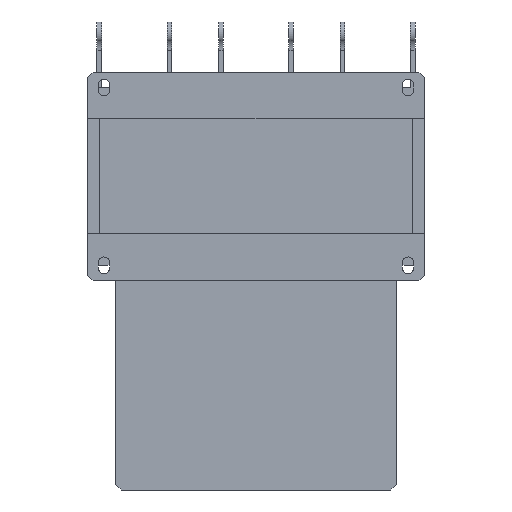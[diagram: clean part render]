
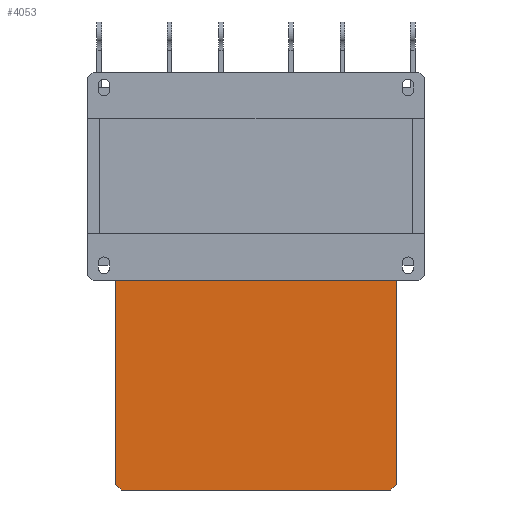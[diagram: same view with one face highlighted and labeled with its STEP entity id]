
A CAD part, front view. The second image highlights one B-rep face of the part: STEP entity #4053.
In plain terms, the highlighted planar face has unit normal (0, -1, 0).
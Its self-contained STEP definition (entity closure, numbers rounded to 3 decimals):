
#489=FACE_OUTER_BOUND('',#751,.T.);
#751=EDGE_LOOP('',(#3454,#3455,#3456,#3457,#3458,#3459));
#1112=LINE('',#6587,#1526);
#1118=LINE('',#6598,#1532);
#1124=LINE('',#6610,#1538);
#1128=LINE('',#6618,#1542);
#1129=LINE('',#6621,#1543);
#1133=LINE('',#6628,#1547);
#1526=VECTOR('',#5397,10.);
#1532=VECTOR('',#5405,10.);
#1538=VECTOR('',#5415,10.);
#1542=VECTOR('',#5421,10.);
#1543=VECTOR('',#5424,10.);
#1547=VECTOR('',#5430,10.);
#1922=VERTEX_POINT('',#6585);
#1923=VERTEX_POINT('',#6586);
#1927=VERTEX_POINT('',#6596);
#1931=VERTEX_POINT('',#6608);
#1934=VERTEX_POINT('',#6616);
#1935=VERTEX_POINT('',#6620);
#2434=EDGE_CURVE('',#1922,#1923,#1112,.T.);
#2440=EDGE_CURVE('',#1922,#1927,#1118,.T.);
#2446=EDGE_CURVE('',#1931,#1927,#1124,.T.);
#2450=EDGE_CURVE('',#1934,#1931,#1128,.T.);
#2451=EDGE_CURVE('',#1923,#1935,#1129,.T.);
#2455=EDGE_CURVE('',#1934,#1935,#1133,.T.);
#3454=ORIENTED_EDGE('',*,*,#2434,.F.);
#3455=ORIENTED_EDGE('',*,*,#2440,.T.);
#3456=ORIENTED_EDGE('',*,*,#2446,.F.);
#3457=ORIENTED_EDGE('',*,*,#2450,.F.);
#3458=ORIENTED_EDGE('',*,*,#2455,.T.);
#3459=ORIENTED_EDGE('',*,*,#2451,.F.);
#3841=PLANE('',#4448);
#4053=ADVANCED_FACE('',(#489),#3841,.T.);
#4448=AXIS2_PLACEMENT_3D('',#6633,#5437,#5438);
#5397=DIRECTION('',(-0.707,0.,0.707));
#5405=DIRECTION('',(1.,0.,0.));
#5415=DIRECTION('',(-0.707,0.,-0.707));
#5421=DIRECTION('',(0.,0.,-1.));
#5424=DIRECTION('',(0.,0.,1.));
#5430=DIRECTION('',(-1.,0.,0.));
#5437=DIRECTION('center_axis',(0.,-1.,0.));
#5438=DIRECTION('ref_axis',(0.,0.,-1.));
#6585=CARTESIAN_POINT('',(-144.,34.,-335.));
#6586=CARTESIAN_POINT('',(-150.,34.,-329.));
#6587=CARTESIAN_POINT('',(-175.875,34.,-303.125));
#6596=CARTESIAN_POINT('',(144.,34.,-335.));
#6598=CARTESIAN_POINT('',(0.,34.,-335.));
#6608=CARTESIAN_POINT('',(150.,34.,-329.));
#6610=CARTESIAN_POINT('',(175.875,34.,-303.125));
#6616=CARTESIAN_POINT('',(150.,34.,-69.5));
#6618=CARTESIAN_POINT('',(150.,34.,-69.5));
#6620=CARTESIAN_POINT('',(-150.,34.,-69.5));
#6621=CARTESIAN_POINT('',(-150.,34.,-69.5));
#6628=CARTESIAN_POINT('',(0.,34.,-69.5));
#6633=CARTESIAN_POINT('Origin',(0.,34.,-69.5));
